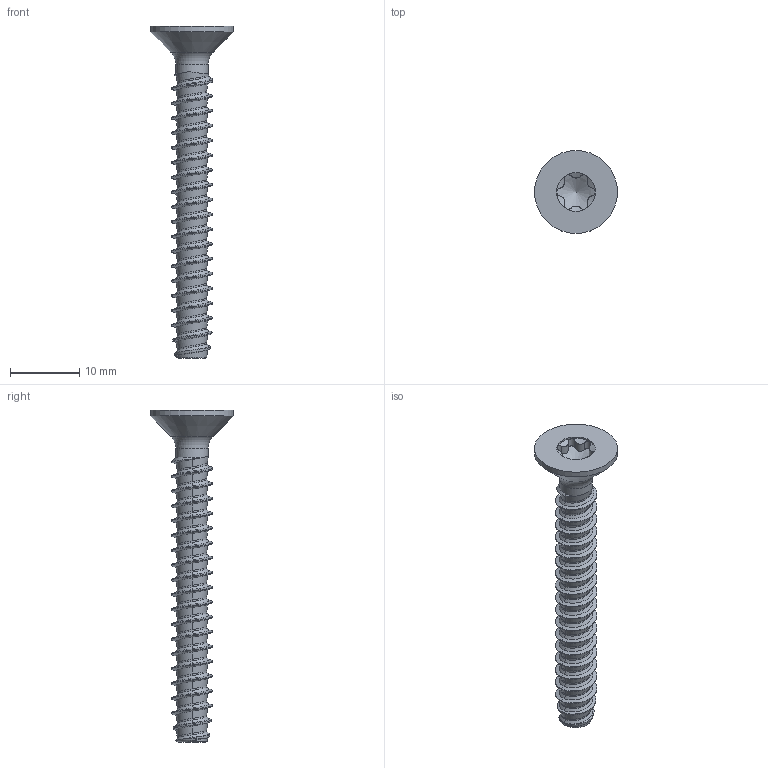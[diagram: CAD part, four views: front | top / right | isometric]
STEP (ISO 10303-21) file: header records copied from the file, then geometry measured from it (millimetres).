
FILE_DESCRIPTION(/* description */ (''),/* implementation_level */ '2;1');
FILE_NAME(/* name */ 'KN6041-STSplus-60x48-T30.step',/* time_stamp */ '2017-10-12T11:04:35+02:00',/* author */ (''),/* organization */ (''),/* preprocessor_version */ 'ST-DEVELOPER v16',/* originating_system */ 'SIEMENS PLM Software NX 10.0',/* authorisation */ '');
FILE_SCHEMA (('AUTOMOTIVE_DESIGN { 1 0 10303 214 3 1 1 1 }'));
Length unit declared in the file: millimetre
Products named in the file (1): KN6041-STSplus-60x48-T30
Bounding box: 12 x 12 x 48 mm (x, y, z)
Volume: 1013.9 mm3; surface area: 1295.4 mm2
Topology: 1 solids, 1 shells, 127 faces, 296 edges, 171 vertices
Faces by surface type: bspline 102, cylinder 16, cone 5, torus 2, plane 2
Full cylindrical faces by diameter (mm): 4.68 x1, 5.62 x1, 12 x1
Entity records: 9309 total; most frequent: CARTESIAN_POINT 7137, ORIENTED_EDGE 562, EDGE_CURVE 281, DIRECTION 183, VERTEX_POINT 165, B_SPLINE_CURVE_WITH_KNOTS 161, EDGE_LOOP 135, ADVANCED_FACE 127
